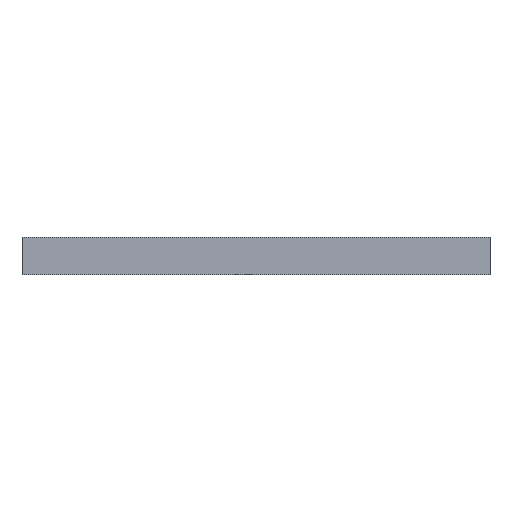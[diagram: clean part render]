
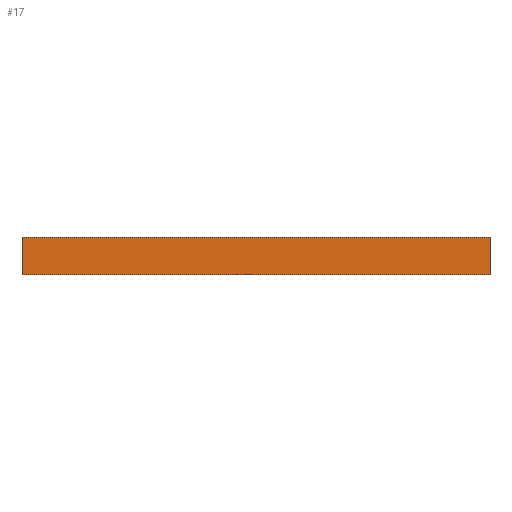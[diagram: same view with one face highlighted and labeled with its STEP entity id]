
A CAD part, front view. The second image highlights one B-rep face of the part: STEP entity #17.
In plain terms, the highlighted planar face has unit normal (0, -1, 0).
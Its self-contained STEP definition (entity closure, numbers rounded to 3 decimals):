
#17 = ADVANCED_FACE('',(#18),#32,.F.);
#18 = FACE_BOUND('',#19,.T.);
#19 = EDGE_LOOP('',(#20,#55,#83,#111));
#20 = ORIENTED_EDGE('',*,*,#21,.T.);
#21 = EDGE_CURVE('',#22,#24,#26,.T.);
#22 = VERTEX_POINT('',#23);
#23 = CARTESIAN_POINT('',(100.,-100.,0.));
#24 = VERTEX_POINT('',#25);
#25 = CARTESIAN_POINT('',(100.,-100.,16.));
#26 = SURFACE_CURVE('',#27,(#31,#43),.PCURVE_S1.);
#27 = LINE('',#28,#29);
#28 = CARTESIAN_POINT('',(100.,-100.,0.));
#29 = VECTOR('',#30,1.);
#30 = DIRECTION('',(-0.,-0.,1.));
#31 = PCURVE('',#32,#37);
#32 = PLANE('',#33);
#33 = AXIS2_PLACEMENT_3D('',#34,#35,#36);
#34 = CARTESIAN_POINT('',(100.,-100.,0.));
#35 = DIRECTION('',(-0.,1.,-0.));
#36 = DIRECTION('',(1.,0.,0.));
#37 = DEFINITIONAL_REPRESENTATION('',(#38),#42);
#38 = LINE('',#39,#40);
#39 = CARTESIAN_POINT('',(-0.,-0.));
#40 = VECTOR('',#41,1.);
#41 = DIRECTION('',(-0.,-1.));
#42 = ( GEOMETRIC_REPRESENTATION_CONTEXT(2) 
PARAMETRIC_REPRESENTATION_CONTEXT() REPRESENTATION_CONTEXT('2D SPACE',''
  ) );
#43 = PCURVE('',#44,#49);
#44 = PLANE('',#45);
#45 = AXIS2_PLACEMENT_3D('',#46,#47,#48);
#46 = CARTESIAN_POINT('',(100.,100.,0.));
#47 = DIRECTION('',(-1.,-0.,-0.));
#48 = DIRECTION('',(0.,1.,0.));
#49 = DEFINITIONAL_REPRESENTATION('',(#50),#54);
#50 = LINE('',#51,#52);
#51 = CARTESIAN_POINT('',(-200.,0.));
#52 = VECTOR('',#53,1.);
#53 = DIRECTION('',(-0.,-1.));
#54 = ( GEOMETRIC_REPRESENTATION_CONTEXT(2) 
PARAMETRIC_REPRESENTATION_CONTEXT() REPRESENTATION_CONTEXT('2D SPACE',''
  ) );
#55 = ORIENTED_EDGE('',*,*,#56,.T.);
#56 = EDGE_CURVE('',#24,#57,#59,.T.);
#57 = VERTEX_POINT('',#58);
#58 = CARTESIAN_POINT('',(-100.,-100.,16.));
#59 = SURFACE_CURVE('',#60,(#64,#71),.PCURVE_S1.);
#60 = LINE('',#61,#62);
#61 = CARTESIAN_POINT('',(100.,-100.,16.));
#62 = VECTOR('',#63,1.);
#63 = DIRECTION('',(-1.,-0.,-0.));
#64 = PCURVE('',#32,#65);
#65 = DEFINITIONAL_REPRESENTATION('',(#66),#70);
#66 = LINE('',#67,#68);
#67 = CARTESIAN_POINT('',(-0.,-16.));
#68 = VECTOR('',#69,1.);
#69 = DIRECTION('',(-1.,0.));
#70 = ( GEOMETRIC_REPRESENTATION_CONTEXT(2) 
PARAMETRIC_REPRESENTATION_CONTEXT() REPRESENTATION_CONTEXT('2D SPACE',''
  ) );
#71 = PCURVE('',#72,#77);
#72 = PLANE('',#73);
#73 = AXIS2_PLACEMENT_3D('',#74,#75,#76);
#74 = CARTESIAN_POINT('',(0.,0.,16.));
#75 = DIRECTION('',(-0.,-0.,1.));
#76 = DIRECTION('',(1.,0.,0.));
#77 = DEFINITIONAL_REPRESENTATION('',(#78),#82);
#78 = LINE('',#79,#80);
#79 = CARTESIAN_POINT('',(100.,-100.));
#80 = VECTOR('',#81,1.);
#81 = DIRECTION('',(-1.,0.));
#82 = ( GEOMETRIC_REPRESENTATION_CONTEXT(2) 
PARAMETRIC_REPRESENTATION_CONTEXT() REPRESENTATION_CONTEXT('2D SPACE',''
  ) );
#83 = ORIENTED_EDGE('',*,*,#84,.F.);
#84 = EDGE_CURVE('',#85,#57,#87,.T.);
#85 = VERTEX_POINT('',#86);
#86 = CARTESIAN_POINT('',(-100.,-100.,0.));
#87 = SURFACE_CURVE('',#88,(#92,#99),.PCURVE_S1.);
#88 = LINE('',#89,#90);
#89 = CARTESIAN_POINT('',(-100.,-100.,0.));
#90 = VECTOR('',#91,1.);
#91 = DIRECTION('',(-0.,-0.,1.));
#92 = PCURVE('',#32,#93);
#93 = DEFINITIONAL_REPRESENTATION('',(#94),#98);
#94 = LINE('',#95,#96);
#95 = CARTESIAN_POINT('',(-200.,0.));
#96 = VECTOR('',#97,1.);
#97 = DIRECTION('',(-0.,-1.));
#98 = ( GEOMETRIC_REPRESENTATION_CONTEXT(2) 
PARAMETRIC_REPRESENTATION_CONTEXT() REPRESENTATION_CONTEXT('2D SPACE',''
  ) );
#99 = PCURVE('',#100,#105);
#100 = PLANE('',#101);
#101 = AXIS2_PLACEMENT_3D('',#102,#103,#104);
#102 = CARTESIAN_POINT('',(-100.,-100.,0.));
#103 = DIRECTION('',(1.,-0.,-0.));
#104 = DIRECTION('',(0.,-1.,0.));
#105 = DEFINITIONAL_REPRESENTATION('',(#106),#110);
#106 = LINE('',#107,#108);
#107 = CARTESIAN_POINT('',(-0.,-0.));
#108 = VECTOR('',#109,1.);
#109 = DIRECTION('',(-0.,-1.));
#110 = ( GEOMETRIC_REPRESENTATION_CONTEXT(2) 
PARAMETRIC_REPRESENTATION_CONTEXT() REPRESENTATION_CONTEXT('2D SPACE',''
  ) );
#111 = ORIENTED_EDGE('',*,*,#112,.F.);
#112 = EDGE_CURVE('',#22,#85,#113,.T.);
#113 = SURFACE_CURVE('',#114,(#118,#125),.PCURVE_S1.);
#114 = LINE('',#115,#116);
#115 = CARTESIAN_POINT('',(100.,-100.,0.));
#116 = VECTOR('',#117,1.);
#117 = DIRECTION('',(-1.,-0.,-0.));
#118 = PCURVE('',#32,#119);
#119 = DEFINITIONAL_REPRESENTATION('',(#120),#124);
#120 = LINE('',#121,#122);
#121 = CARTESIAN_POINT('',(-0.,-0.));
#122 = VECTOR('',#123,1.);
#123 = DIRECTION('',(-1.,0.));
#124 = ( GEOMETRIC_REPRESENTATION_CONTEXT(2) 
PARAMETRIC_REPRESENTATION_CONTEXT() REPRESENTATION_CONTEXT('2D SPACE',''
  ) );
#125 = PCURVE('',#126,#131);
#126 = PLANE('',#127);
#127 = AXIS2_PLACEMENT_3D('',#128,#129,#130);
#128 = CARTESIAN_POINT('',(0.,0.,0.));
#129 = DIRECTION('',(-0.,-0.,1.));
#130 = DIRECTION('',(1.,0.,0.));
#131 = DEFINITIONAL_REPRESENTATION('',(#132),#136);
#132 = LINE('',#133,#134);
#133 = CARTESIAN_POINT('',(100.,-100.));
#134 = VECTOR('',#135,1.);
#135 = DIRECTION('',(-1.,0.));
#136 = ( GEOMETRIC_REPRESENTATION_CONTEXT(2) 
PARAMETRIC_REPRESENTATION_CONTEXT() REPRESENTATION_CONTEXT('2D SPACE',''
  ) );
